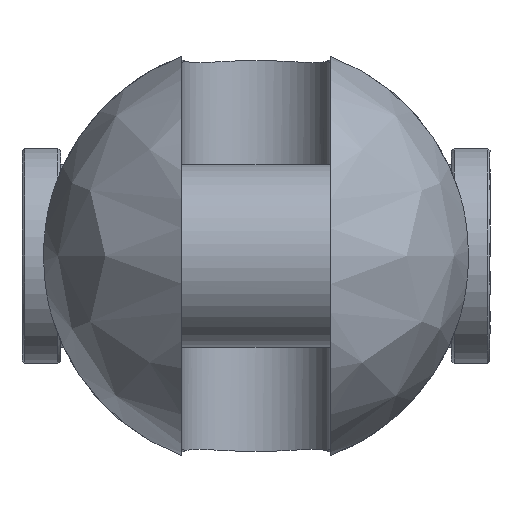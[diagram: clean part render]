
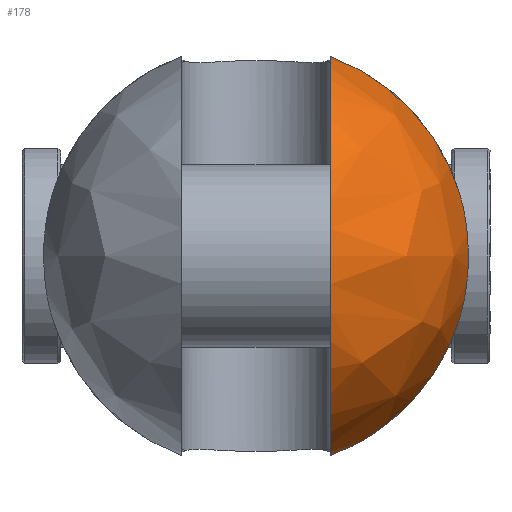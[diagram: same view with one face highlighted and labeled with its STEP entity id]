
A CAD part, left-side view. The second image highlights one B-rep face of the part: STEP entity #178.
In plain terms, the highlighted free-form (B-spline) face has degree [2, 2] with [9, 5] control points.
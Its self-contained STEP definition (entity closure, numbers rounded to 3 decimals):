
#178=ADVANCED_FACE('',(#318),#2409,.T.);
#318=FACE_OUTER_BOUND('',#478,.T.);
#478=EDGE_LOOP('',(#1189,#1190,#1191,#1192));
#1189=ORIENTED_EDGE('',*,*,#1571,.T.);
#1190=ORIENTED_EDGE('',*,*,#1597,.F.);
#1191=ORIENTED_EDGE('',*,*,#1609,.T.);
#1192=ORIENTED_EDGE('',*,*,#1589,.F.);
#1571=EDGE_CURVE('',#2242,#2241,#1976,.T.);
#1589=EDGE_CURVE('',#2242,#2254,#1986,.T.);
#1597=EDGE_CURVE('',#2261,#2241,#1987,.T.);
#1609=EDGE_CURVE('',#2261,#2254,#1782,.T.);
#1782=B_SPLINE_CURVE_WITH_KNOTS('',3,(#6063,#6064,#6065,#6066,#6067,#6068,
#6069,#6070,#6071,#6072,#6073,#6074,#6075,#6076),.UNSPECIFIED.,.F.,.F.,
(4,2,2,2,2,2,4),(0.,1.858,6.614,11.369,
16.125,20.881,22.739),.UNSPECIFIED.);
#1976=(
BOUNDED_CURVE()
B_SPLINE_CURVE(2,(#5847,#5848,#5849,#5850,#5851),.UNSPECIFIED.,.F.,.F.)
B_SPLINE_CURVE_WITH_KNOTS((3,2,3),(-113.272,-56.636,0.),
 .UNSPECIFIED.)
CURVE()
GEOMETRIC_REPRESENTATION_ITEM()
RATIONAL_B_SPLINE_CURVE((1.,0.707,1.,0.707,1.))
REPRESENTATION_ITEM('')
);
#1986=(
BOUNDED_CURVE()
B_SPLINE_CURVE(2,(#5933,#5934,#5935),.UNSPECIFIED.,.F.,.F.)
B_SPLINE_CURVE_WITH_KNOTS((3,3),(0.,35.864),.UNSPECIFIED.)
CURVE()
GEOMETRIC_REPRESENTATION_ITEM()
RATIONAL_B_SPLINE_CURVE((1.,0.893,1.))
REPRESENTATION_ITEM('')
);
#1987=(
BOUNDED_CURVE()
B_SPLINE_CURVE(2,(#5990,#5991,#5992),.UNSPECIFIED.,.F.,.F.)
B_SPLINE_CURVE_WITH_KNOTS((3,3),(0.,35.864),.UNSPECIFIED.)
CURVE()
GEOMETRIC_REPRESENTATION_ITEM()
RATIONAL_B_SPLINE_CURVE((1.,0.893,1.))
REPRESENTATION_ITEM('')
);
#2241=VERTEX_POINT('',#5723);
#2242=VERTEX_POINT('',#5724);
#2254=VERTEX_POINT('',#5736);
#2261=VERTEX_POINT('',#5743);
#2409=(
BOUNDED_SURFACE()
B_SPLINE_SURFACE(2,2,((#5437,#5438,#5439,#5440,#5441),(#5442,#5443,#5444,
#5445,#5446),(#5447,#5448,#5449,#5450,#5451),(#5452,#5453,#5454,#5455,#5456),
(#5457,#5458,#5459,#5460,#5461),(#5462,#5463,#5464,#5465,#5466),(#5467,
#5468,#5469,#5470,#5471),(#5472,#5473,#5474,#5475,#5476),(#5477,#5478,#5479,
#5480,#5481)),.UNSPECIFIED.,.T.,.F.,.F.)
B_SPLINE_SURFACE_WITH_KNOTS((3,2,2,2,3),(3,2,3),(0.,60.476,120.951,
181.427,241.903),(0.,60.476,120.951),
 .UNSPECIFIED.)
GEOMETRIC_REPRESENTATION_ITEM()
RATIONAL_B_SPLINE_SURFACE(((1.,0.707,1.,0.707,1.),
(0.707,0.5,0.707,0.5,0.707),(1.,0.707,
1.,0.707,1.),(0.707,0.5,0.707,0.5,0.707),
(1.,0.707,1.,0.707,1.),(0.707,0.5,0.707,
0.5,0.707),(1.,0.707,1.,0.707,1.),(0.707,
0.5,0.707,0.5,0.707),(1.,0.707,1.,0.707,
1.)))
REPRESENTATION_ITEM('')
SURFACE()
);
#5437=CARTESIAN_POINT('',(-56.,0.,0.));
#5438=CARTESIAN_POINT('',(-56.,38.5,0.));
#5439=CARTESIAN_POINT('',(-17.5,38.5,0.));
#5440=CARTESIAN_POINT('',(21.,38.5,0.));
#5441=CARTESIAN_POINT('',(21.,0.,0.));
#5442=CARTESIAN_POINT('',(-56.,0.,0.));
#5443=CARTESIAN_POINT('',(-56.,38.5,38.5));
#5444=CARTESIAN_POINT('',(-17.5,38.5,38.5));
#5445=CARTESIAN_POINT('',(21.,38.5,38.5));
#5446=CARTESIAN_POINT('',(21.,0.,0.));
#5447=CARTESIAN_POINT('',(-56.,0.,0.));
#5448=CARTESIAN_POINT('',(-56.,0.,38.5));
#5449=CARTESIAN_POINT('',(-17.5,0.,38.5));
#5450=CARTESIAN_POINT('',(21.,0.,38.5));
#5451=CARTESIAN_POINT('',(21.,0.,0.));
#5452=CARTESIAN_POINT('',(-56.,0.,0.));
#5453=CARTESIAN_POINT('',(-56.,-38.5,38.5));
#5454=CARTESIAN_POINT('',(-17.5,-38.5,38.5));
#5455=CARTESIAN_POINT('',(21.,-38.5,38.5));
#5456=CARTESIAN_POINT('',(21.,0.,0.));
#5457=CARTESIAN_POINT('',(-56.,0.,0.));
#5458=CARTESIAN_POINT('',(-56.,-38.5,0.));
#5459=CARTESIAN_POINT('',(-17.5,-38.5,0.));
#5460=CARTESIAN_POINT('',(21.,-38.5,0.));
#5461=CARTESIAN_POINT('',(21.,0.,0.));
#5462=CARTESIAN_POINT('',(-56.,0.,0.));
#5463=CARTESIAN_POINT('',(-56.,-38.5,-38.5));
#5464=CARTESIAN_POINT('',(-17.5,-38.5,-38.5));
#5465=CARTESIAN_POINT('',(21.,-38.5,-38.5));
#5466=CARTESIAN_POINT('',(21.,0.,0.));
#5467=CARTESIAN_POINT('',(-56.,0.,0.));
#5468=CARTESIAN_POINT('',(-56.,0.,-38.5));
#5469=CARTESIAN_POINT('',(-17.5,0.,-38.5));
#5470=CARTESIAN_POINT('',(21.,0.,-38.5));
#5471=CARTESIAN_POINT('',(21.,0.,0.));
#5472=CARTESIAN_POINT('',(-56.,0.,0.));
#5473=CARTESIAN_POINT('',(-56.,38.5,-38.5));
#5474=CARTESIAN_POINT('',(-17.5,38.5,-38.5));
#5475=CARTESIAN_POINT('',(21.,38.5,-38.5));
#5476=CARTESIAN_POINT('',(21.,0.,0.));
#5477=CARTESIAN_POINT('',(-56.,0.,0.));
#5478=CARTESIAN_POINT('',(-56.,38.5,0.));
#5479=CARTESIAN_POINT('',(-17.5,38.5,0.));
#5480=CARTESIAN_POINT('',(21.,38.5,0.));
#5481=CARTESIAN_POINT('',(21.,0.,0.));
#5723=CARTESIAN_POINT('',(-17.5,-13.5,-36.056));
#5724=CARTESIAN_POINT('',(-17.5,-13.5,36.056));
#5736=CARTESIAN_POINT('',(-17.5,-36.99,10.677));
#5743=CARTESIAN_POINT('',(-17.5,-36.99,-10.677));
#5847=CARTESIAN_POINT('',(-17.5,-13.5,36.056));
#5848=CARTESIAN_POINT('',(-53.556,-13.5,36.056));
#5849=CARTESIAN_POINT('',(-53.556,-13.5,0.));
#5850=CARTESIAN_POINT('',(-53.556,-13.5,-36.056));
#5851=CARTESIAN_POINT('',(-17.5,-13.5,-36.056));
#5933=CARTESIAN_POINT('',(-17.5,-13.5,36.056));
#5934=CARTESIAN_POINT('',(-17.5,-31.623,29.27));
#5935=CARTESIAN_POINT('',(-17.5,-36.99,10.677));
#5990=CARTESIAN_POINT('',(-17.5,-36.99,-10.677));
#5991=CARTESIAN_POINT('',(-17.5,-31.623,-29.27));
#5992=CARTESIAN_POINT('',(-17.5,-13.5,-36.056));
#6063=CARTESIAN_POINT('',(-17.5,-36.99,-10.677));
#6064=CARTESIAN_POINT('',(-17.817,-37.14,-10.158));
#6065=CARTESIAN_POINT('',(-18.112,-37.278,-9.623));
#6066=CARTESIAN_POINT('',(-19.077,-37.73,-7.668));
#6067=CARTESIAN_POINT('',(-19.613,-37.977,-6.168));
#6068=CARTESIAN_POINT('',(-20.325,-38.303,-3.101));
#6069=CARTESIAN_POINT('',(-20.5,-38.383,-1.534));
#6070=CARTESIAN_POINT('',(-20.5,-38.383,1.534));
#6071=CARTESIAN_POINT('',(-20.325,-38.303,3.101));
#6072=CARTESIAN_POINT('',(-19.613,-37.977,6.168));
#6073=CARTESIAN_POINT('',(-19.077,-37.73,7.668));
#6074=CARTESIAN_POINT('',(-18.112,-37.278,9.623));
#6075=CARTESIAN_POINT('',(-17.817,-37.14,10.158));
#6076=CARTESIAN_POINT('',(-17.5,-36.99,10.677));
